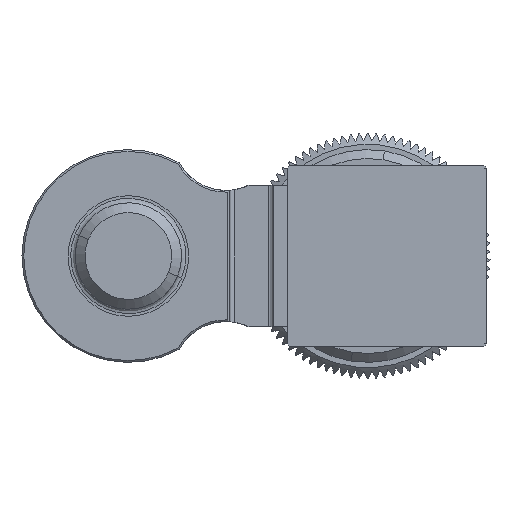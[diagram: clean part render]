
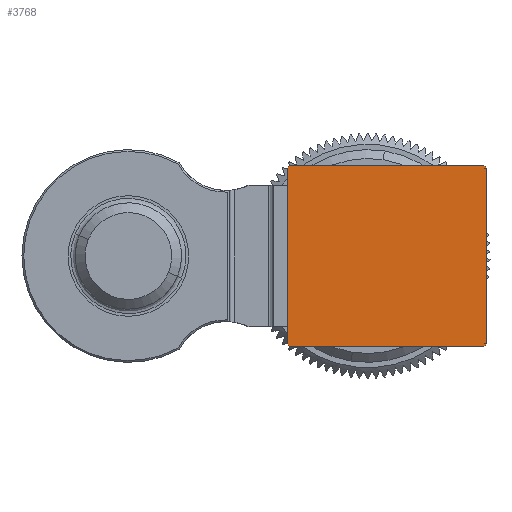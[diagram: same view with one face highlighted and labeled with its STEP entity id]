
A CAD part, left-side view. The second image highlights one B-rep face of the part: STEP entity #3768.
In plain terms, the highlighted planar face has unit normal (-1, 0, 0).
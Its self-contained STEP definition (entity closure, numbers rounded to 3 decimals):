
#112 = VERTEX_POINT ( 'NONE', #8656 ) ;
#443 = CARTESIAN_POINT ( 'NONE',  ( 0., -11.049, 0. ) ) ;
#468 = DIRECTION ( 'NONE',  ( 0., 0., -1. ) ) ;
#477 = CARTESIAN_POINT ( 'NONE',  ( 0., -11.2, -10.05 ) ) ;
#490 = DIRECTION ( 'NONE',  ( 0., 0., 1. ) ) ;
#513 = DIRECTION ( 'NONE',  ( 0., 0., 1. ) ) ;
#753 = AXIS2_PLACEMENT_3D ( 'NONE', #14538, #13216, #513 ) ;
#791 = ORIENTED_EDGE ( 'NONE', *, *, #8929, .F. ) ;
#836 = VERTEX_POINT ( 'NONE', #443 ) ;
#1649 = CARTESIAN_POINT ( 'NONE',  ( 0., -11.2, -0.15 ) ) ;
#2138 = VECTOR ( 'NONE', #468, 1000. ) ;
#2350 = ORIENTED_EDGE ( 'NONE', *, *, #8591, .T. ) ;
#2628 = EDGE_CURVE ( 'NONE', #8838, #4105, #8573, .T. ) ;
#2860 = DIRECTION ( 'NONE',  ( 0., -1., 0. ) ) ;
#2890 = EDGE_CURVE ( 'NONE', #112, #836, #13504, .T. ) ;
#2916 = VERTEX_POINT ( 'NONE', #9267 ) ;
#3132 = CARTESIAN_POINT ( 'NONE',  ( 0., -11.049, -10.2 ) ) ;
#3554 = ORIENTED_EDGE ( 'NONE', *, *, #2628, .T. ) ;
#3768 = ADVANCED_FACE ( 'NONE', ( #14986 ), #5627, .T. ) ;
#4105 = VERTEX_POINT ( 'NONE', #11582 ) ;
#4345 = LINE ( 'NONE', #11288, #14821 ) ;
#4595 = ORIENTED_EDGE ( 'NONE', *, *, #10080, .T. ) ;
#4604 = VERTEX_POINT ( 'NONE', #7775 ) ;
#4771 = EDGE_CURVE ( 'NONE', #112, #4105, #7677, .T. ) ;
#5532 = CARTESIAN_POINT ( 'NONE',  ( 0., -11.138, 0. ) ) ;
#5627 = PLANE ( 'NONE',  #14719 ) ;
#5654 = CARTESIAN_POINT ( 'NONE',  ( 0., 0., 0. ) ) ;
#5656 = VECTOR ( 'NONE', #2860, 1000. ) ;
#5668 = DIRECTION ( 'NONE',  ( 0., 0., 1. ) ) ;
#5824 = VERTEX_POINT ( 'NONE', #12719 ) ;
#6027 = AXIS2_PLACEMENT_3D ( 'NONE', #15475, #14383, #490 ) ;
#6530 = ORIENTED_EDGE ( 'NONE', *, *, #2890, .T. ) ;
#6643 = CARTESIAN_POINT ( 'NONE',  ( 0., -11.2, 0. ) ) ;
#7522 = ORIENTED_EDGE ( 'NONE', *, *, #15608, .T. ) ;
#7633 = ORIENTED_EDGE ( 'NONE', *, *, #4771, .F. ) ;
#7677 = LINE ( 'NONE', #6643, #2138 ) ;
#7775 = CARTESIAN_POINT ( 'NONE',  ( 0., -0.15, 0. ) ) ;
#8177 = DIRECTION ( 'NONE',  ( 0., 0., -1. ) ) ;
#8573 =( BOUNDED_CURVE ( )  B_SPLINE_CURVE ( 3, ( #3132, #15100, #11341, #477 ),
 .UNSPECIFIED., .F., .F. ) 
 B_SPLINE_CURVE_WITH_KNOTS ( ( 4, 4 ),
 ( 4.712, 6.283 ),
 .UNSPECIFIED. ) 
 CURVE ( )  GEOMETRIC_REPRESENTATION_ITEM ( )  RATIONAL_B_SPLINE_CURVE ( ( 1., 0.805, 0.805, 1. ) ) 
 REPRESENTATION_ITEM ( '' )  );
#8591 = EDGE_CURVE ( 'NONE', #2916, #5824, #12959, .T. ) ;
#8648 = VERTEX_POINT ( 'NONE', #9295 ) ;
#8656 = CARTESIAN_POINT ( 'NONE',  ( 0., -11.2, -0.15 ) ) ;
#8838 = VERTEX_POINT ( 'NONE', #10023 ) ;
#8929 = EDGE_CURVE ( 'NONE', #4604, #836, #10409, .T. ) ;
#9038 = LINE ( 'NONE', #5654, #15096 ) ;
#9267 = CARTESIAN_POINT ( 'NONE',  ( 0., 0., -10.05 ) ) ;
#9295 = CARTESIAN_POINT ( 'NONE',  ( 0., 0., -0.15 ) ) ;
#9971 = CIRCLE ( 'NONE', #753, 0.15 ) ;
#10023 = CARTESIAN_POINT ( 'NONE',  ( 0., -11.049, -10.2 ) ) ;
#10080 = EDGE_CURVE ( 'NONE', #4604, #8648, #9971, .T. ) ;
#10409 = LINE ( 'NONE', #11704, #5656 ) ;
#10469 = CARTESIAN_POINT ( 'NONE',  ( 0., -11.2, -0.062 ) ) ;
#11288 = CARTESIAN_POINT ( 'NONE',  ( 0., -5.6, -10.2 ) ) ;
#11341 = CARTESIAN_POINT ( 'NONE',  ( 0., -11.2, -10.138 ) ) ;
#11582 = CARTESIAN_POINT ( 'NONE',  ( 0., -11.2, -10.05 ) ) ;
#11704 = CARTESIAN_POINT ( 'NONE',  ( 0., -4.712, 0. ) ) ;
#11781 = CARTESIAN_POINT ( 'NONE',  ( 0., -11.049, 0. ) ) ;
#12452 = DIRECTION ( 'NONE',  ( 0., -1., 0. ) ) ;
#12592 = EDGE_CURVE ( 'NONE', #5824, #8838, #4345, .T. ) ;
#12719 = CARTESIAN_POINT ( 'NONE',  ( 0., -0.15, -10.2 ) ) ;
#12959 = CIRCLE ( 'NONE', #6027, 0.15 ) ;
#13216 = DIRECTION ( 'NONE',  ( -1., 0., 0. ) ) ;
#13488 = EDGE_LOOP ( 'NONE', ( #791, #4595, #7522, #2350, #13908, #3554, #7633, #6530 ) ) ;
#13504 =( BOUNDED_CURVE ( )  B_SPLINE_CURVE ( 3, ( #1649, #10469, #5532, #11781 ),
 .UNSPECIFIED., .F., .F. ) 
 B_SPLINE_CURVE_WITH_KNOTS ( ( 4, 4 ),
 ( 0., 1.571 ),
 .UNSPECIFIED. ) 
 CURVE ( )  GEOMETRIC_REPRESENTATION_ITEM ( )  RATIONAL_B_SPLINE_CURVE ( ( 1., 0.805, 0.805, 1. ) ) 
 REPRESENTATION_ITEM ( '' )  );
#13908 = ORIENTED_EDGE ( 'NONE', *, *, #12592, .T. ) ;
#14383 = DIRECTION ( 'NONE',  ( -1., 0., 0. ) ) ;
#14521 = DIRECTION ( 'NONE',  ( -1., 0., 0. ) ) ;
#14538 = CARTESIAN_POINT ( 'NONE',  ( 0., -0.15, -0.15 ) ) ;
#14719 = AXIS2_PLACEMENT_3D ( 'NONE', #15535, #14521, #5668 ) ;
#14821 = VECTOR ( 'NONE', #12452, 1000. ) ;
#14986 = FACE_OUTER_BOUND ( 'NONE', #13488, .T. ) ;
#15096 = VECTOR ( 'NONE', #8177, 1000. ) ;
#15100 = CARTESIAN_POINT ( 'NONE',  ( 0., -11.138, -10.2 ) ) ;
#15475 = CARTESIAN_POINT ( 'NONE',  ( 0., -0.15, -10.05 ) ) ;
#15535 = CARTESIAN_POINT ( 'NONE',  ( 0., -5.6, 0. ) ) ;
#15608 = EDGE_CURVE ( 'NONE', #8648, #2916, #9038, .T. ) ;
